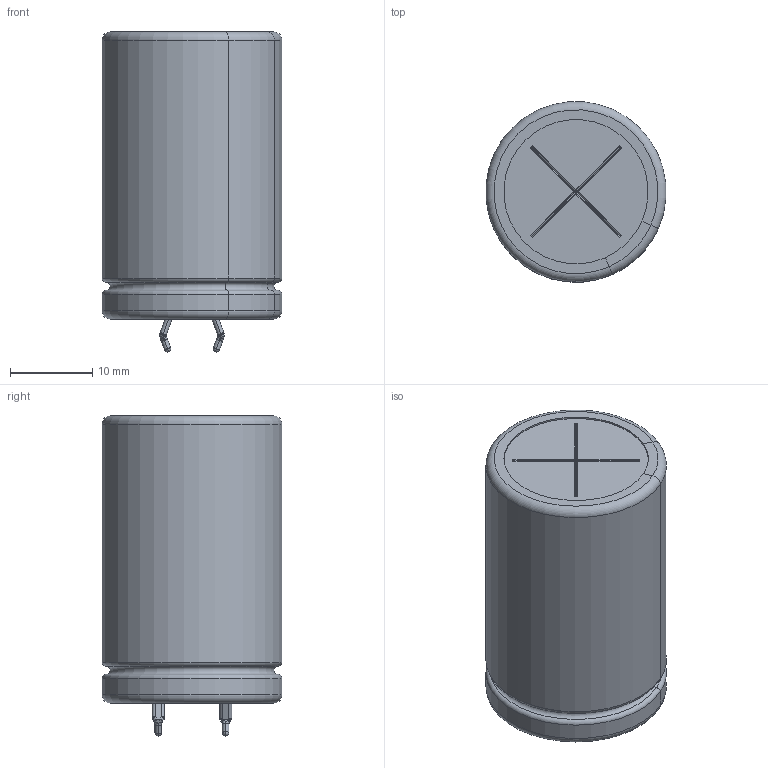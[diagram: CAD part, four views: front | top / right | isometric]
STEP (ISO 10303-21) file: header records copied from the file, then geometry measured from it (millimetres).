
FILE_DESCRIPTION(/* description */ (''),/* implementation_level */ '2;1');
FILE_NAME(/* name */ '22x35_Snap.stp',/* time_stamp */ '2017-09-11T14:16:05+09:00',/* author */ (''),/* organization */ (''),/* preprocessor_version */ 'ST-DEVELOPER v16',/* originating_system */ 'SIEMENS PLM Software NX 11.0',/* authorisation */ '');
FILE_SCHEMA (('AUTOMOTIVE_DESIGN { 1 0 10303 214 3 1 1 1 }'));
Length unit declared in the file: millimetre
Products named in the file (1): 22x35_Snap_0
Bounding box: 21.93 x 21.93 x 39.02 mm (x, y, z)
Volume: 13122.9 mm3; surface area: 8645.5 mm2
Topology: 5 solids, 5 shells, 208 faces, 523 edges, 310 vertices
Faces by surface type: cylinder 76, plane 75, torus 25, sphere 20, bspline 12
Full cylindrical faces by diameter (mm): 4 x2, 21.6 x2
Entity records: 6789 total; most frequent: CARTESIAN_POINT 1265, DIRECTION 1128, ORIENTED_EDGE 988, EDGE_CURVE 494, AXIS2_PLACEMENT_3D 437, VERTEX_POINT 310, LINE 254, VECTOR 254
